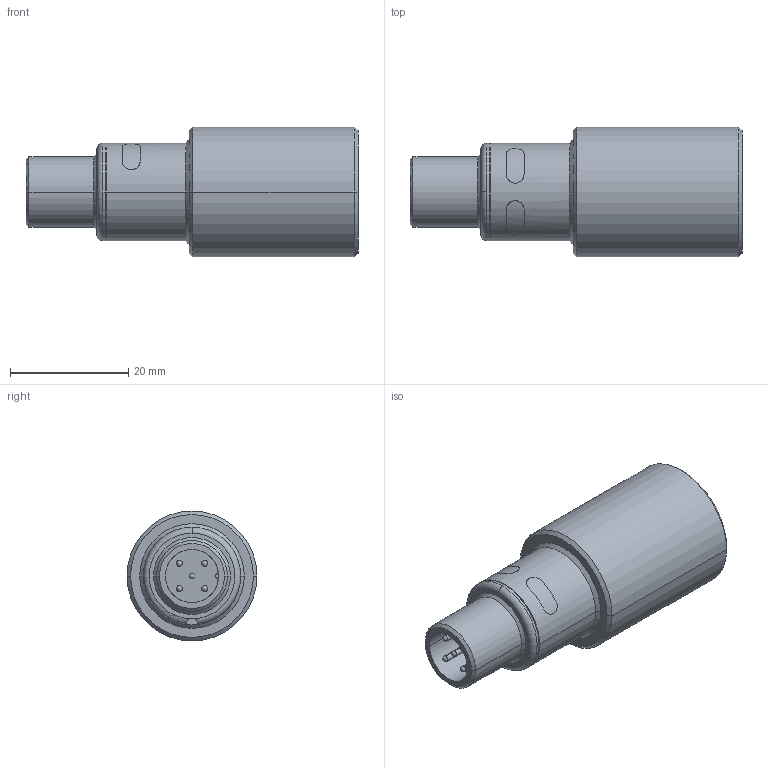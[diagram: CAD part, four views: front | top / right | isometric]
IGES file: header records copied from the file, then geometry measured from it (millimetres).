
Global section: file name: No Iges File Name specified; native system: Autodesk Inventor 2009; preprocessor: AutoDesk Inventor Iges Exporter R2009; author: Oliver Liedtke; date: 20120227.105004; units: millimetre
Bounding box: 56.2 x 22 x 22 mm (x, y, z)
Volume: 14588.7 mm3; surface area: 4364.1 mm2
Topology: 1 solids, 1 shells, 65 faces, 151 edges, 91 vertices
Faces by surface type: cylinder 23, plane 14, cone 10, revolution 5, sphere 5, torus 4, bspline 4
